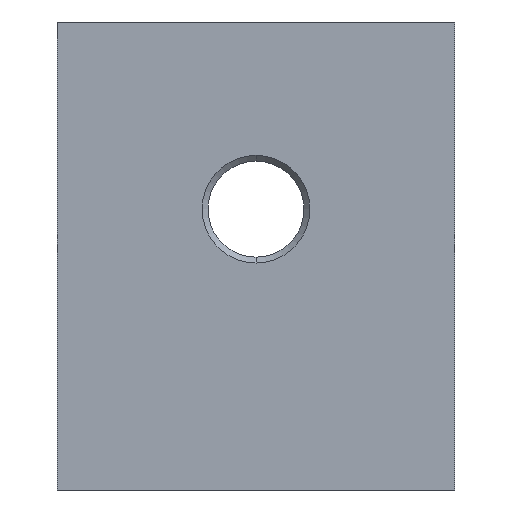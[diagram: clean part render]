
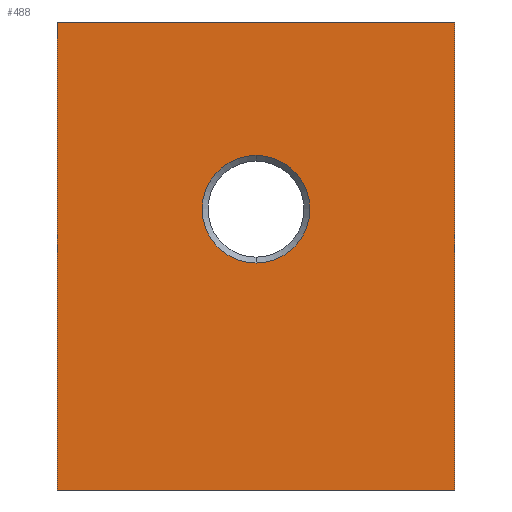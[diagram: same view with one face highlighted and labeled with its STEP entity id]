
A CAD part, front view. The second image highlights one B-rep face of the part: STEP entity #488.
In plain terms, the highlighted planar face has unit normal (0, -1, 0).
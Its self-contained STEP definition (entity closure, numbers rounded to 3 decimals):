
#12 = EDGE_LOOP ( 'NONE', ( #710, #59 ) ) ;
#28 = VERTEX_POINT ( 'NONE', #257 ) ;
#53 = LINE ( 'NONE', #65, #743 ) ;
#59 = ORIENTED_EDGE ( 'NONE', *, *, #557, .T. ) ;
#65 = CARTESIAN_POINT ( 'NONE',  ( 17., 0., -20. ) ) ;
#71 = DIRECTION ( 'NONE',  ( 0., 1., 0. ) ) ;
#77 = AXIS2_PLACEMENT_3D ( 'NONE', #116, #581, #807 ) ;
#82 = EDGE_CURVE ( 'NONE', #766, #388, #808, .T. ) ;
#116 = CARTESIAN_POINT ( 'NONE',  ( 0., 0., 4. ) ) ;
#136 = CARTESIAN_POINT ( 'NONE',  ( 17., 0., 20. ) ) ;
#147 = VERTEX_POINT ( 'NONE', #136 ) ;
#164 = ORIENTED_EDGE ( 'NONE', *, *, #610, .F. ) ;
#170 = VERTEX_POINT ( 'NONE', #348 ) ;
#173 = LINE ( 'NONE', #728, #862 ) ;
#183 = AXIS2_PLACEMENT_3D ( 'NONE', #474, #71, #540 ) ;
#185 = ORIENTED_EDGE ( 'NONE', *, *, #82, .F. ) ;
#200 = CARTESIAN_POINT ( 'NONE',  ( -17., 0., 20. ) ) ;
#243 = PLANE ( 'NONE',  #677 ) ;
#246 = CIRCLE ( 'NONE', #77, 4.6 ) ;
#251 = ORIENTED_EDGE ( 'NONE', *, *, #693, .F. ) ;
#257 = CARTESIAN_POINT ( 'NONE',  ( 17., 0., -20. ) ) ;
#309 = DIRECTION ( 'NONE',  ( 0., 0., 1. ) ) ;
#329 = DIRECTION ( 'NONE',  ( 1., 0., 0. ) ) ;
#348 = CARTESIAN_POINT ( 'NONE',  ( 0., 0., 8.6 ) ) ;
#350 = CARTESIAN_POINT ( 'NONE',  ( -17., 0., -20. ) ) ;
#363 = LINE ( 'NONE', #598, #702 ) ;
#388 = VERTEX_POINT ( 'NONE', #200 ) ;
#392 = EDGE_CURVE ( 'NONE', #813, #170, #711, .T. ) ;
#425 = DIRECTION ( 'NONE',  ( 0., 0., -1. ) ) ;
#474 = CARTESIAN_POINT ( 'NONE',  ( 0., 0., 4. ) ) ;
#476 = FACE_OUTER_BOUND ( 'NONE', #603, .T. ) ;
#488 = ADVANCED_FACE ( 'NONE', ( #835, #476 ), #243, .F. ) ;
#517 = CARTESIAN_POINT ( 'NONE',  ( 0., 0., 0. ) ) ;
#540 = DIRECTION ( 'NONE',  ( 0., 0., 1. ) ) ;
#557 = EDGE_CURVE ( 'NONE', #170, #813, #246, .T. ) ;
#581 = DIRECTION ( 'NONE',  ( 0., 1., 0. ) ) ;
#585 = VECTOR ( 'NONE', #744, 1000. ) ;
#598 = CARTESIAN_POINT ( 'NONE',  ( -17., 0., -20. ) ) ;
#603 = EDGE_LOOP ( 'NONE', ( #164, #251, #185, #619 ) ) ;
#610 = EDGE_CURVE ( 'NONE', #147, #28, #53, .T. ) ;
#616 = CARTESIAN_POINT ( 'NONE',  ( -17., 0., -20. ) ) ;
#619 = ORIENTED_EDGE ( 'NONE', *, *, #676, .F. ) ;
#676 = EDGE_CURVE ( 'NONE', #28, #766, #363, .T. ) ;
#677 = AXIS2_PLACEMENT_3D ( 'NONE', #517, #712, #309 ) ;
#693 = EDGE_CURVE ( 'NONE', #388, #147, #173, .T. ) ;
#702 = VECTOR ( 'NONE', #795, 1000. ) ;
#710 = ORIENTED_EDGE ( 'NONE', *, *, #392, .T. ) ;
#711 = CIRCLE ( 'NONE', #183, 4.6 ) ;
#712 = DIRECTION ( 'NONE',  ( 0., 1., 0. ) ) ;
#728 = CARTESIAN_POINT ( 'NONE',  ( -17., 0., 20. ) ) ;
#743 = VECTOR ( 'NONE', #425, 1000. ) ;
#744 = DIRECTION ( 'NONE',  ( 0., 0., 1. ) ) ;
#766 = VERTEX_POINT ( 'NONE', #350 ) ;
#795 = DIRECTION ( 'NONE',  ( -1., 0., 0. ) ) ;
#807 = DIRECTION ( 'NONE',  ( 0., 0., 1. ) ) ;
#808 = LINE ( 'NONE', #616, #585 ) ;
#813 = VERTEX_POINT ( 'NONE', #834 ) ;
#834 = CARTESIAN_POINT ( 'NONE',  ( 0., 0., -0.6 ) ) ;
#835 = FACE_BOUND ( 'NONE', #12, .T. ) ;
#862 = VECTOR ( 'NONE', #329, 1000. ) ;
